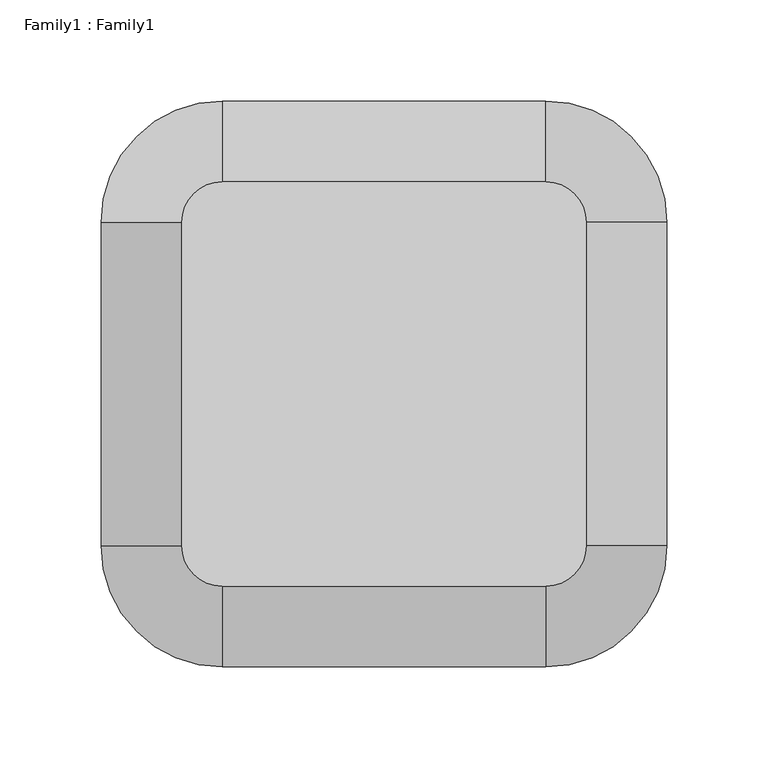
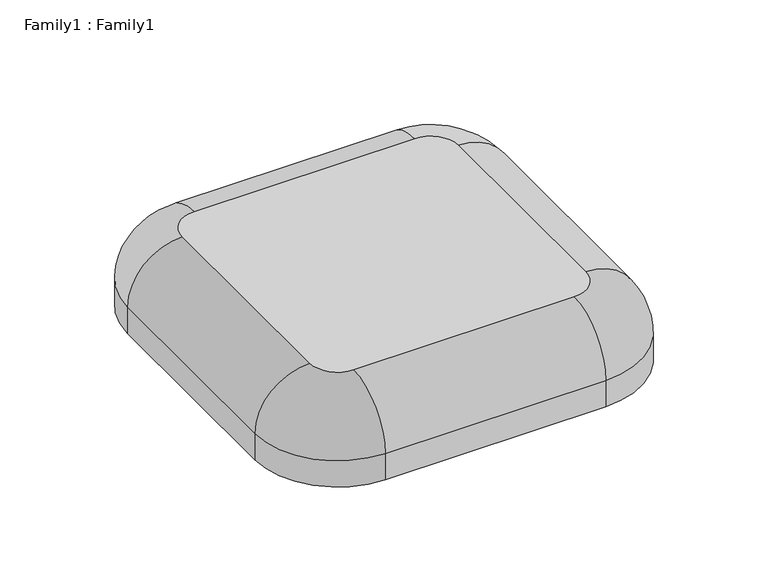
"""IFC4 building model written with IfcOpenShell, lengths in millimetres: proxy geometry, Family1 : Family1."""

import ifcopenshell
import ifcopenshell.guid

model = None  # the IFC model being written
_history = None  # IfcOwnerHistory: only IFC2X3 demands one
_inside = {}  # id of a spatial element -> (the spatial element, [elements in it])
_under = {}  # id of a project, library or spatial element -> (it, [spatial elements below it])
_declared = {}  # id of a project -> (the project, [libraries it declares])
_typed = {}  # id of a type object -> (the type object, [elements of that type])
_made_of = {}  # id of a material, layer set ... -> (it, [elements and type objects made of it])


def new_model(schema):
    """Start an empty IFC model of exactly this schema.

    Asked for "IFC4X3", IfcOpenShell would pick the latest addendum, in which some entities
    have other attributes; the version numbers below select the first issue.
    IFC2X3 requires an IfcOwnerHistory on every rooted entity: one is made here for all.
    """
    global model, _history
    if schema == "IFC4X3":
        model = ifcopenshell.file(schema_version=(4, 3, 0, 0))
    else:
        model = ifcopenshell.file(schema=schema)
    _inside.clear()
    _under.clear()
    _declared.clear()
    _typed.clear()
    _made_of.clear()
    _history = None
    if model.schema == "IFC2X3":
        org = make("IfcOrganization", Name="unknown")
        user = make(
            "IfcPersonAndOrganization",
            ThePerson=make("IfcPerson", FamilyName="unknown"),
            TheOrganization=org,
        )
        app = make(
            "IfcApplication",
            ApplicationDeveloper=org,
            Version="unknown",
            ApplicationFullName="unknown",
            ApplicationIdentifier="unknown",
        )
        _history = make(
            "IfcOwnerHistory",
            OwningUser=user,
            OwningApplication=app,
            ChangeAction="ADDED",
            CreationDate=0,
        )
    return model


def make(cls, **values):
    """One entity of the class cls with the attributes given. An attribute that is None is left unset."""
    return model.create_entity(
        cls, **{name: value for name, value in values.items() if value is not None}
    )


def rooted(cls, **values):
    """An entity with a GlobalId (a new one), such as an element, a storey or a relation."""
    return make(cls, GlobalId=ifcopenshell.guid.new(), OwnerHistory=_history, **values)


def si_unit(unit_type, name, prefix=None):
    """IfcSIUnit, for example si_unit("LENGTHUNIT", "METRE", prefix="MILLI")."""
    return make("IfcSIUnit", UnitType=unit_type, Prefix=prefix, Name=name)


def assignment(units):
    """IfcUnitAssignment: the units of a project."""
    return None if units is None else make("IfcUnitAssignment", Units=units)


def point(xyz):
    """IfcCartesianPoint."""
    return None if xyz is None else make("IfcCartesianPoint", Coordinates=xyz)


def direction(xyz):
    """IfcDirection."""
    return None if xyz is None else make("IfcDirection", DirectionRatios=xyz)


def frame(location, z_axis=None, x_axis=None):
    """IfcAxis2Placement3D, a coordinate frame: its origin and axes. An axis left out is left unset."""
    return make(
        "IfcAxis2Placement3D",
        Location=point(location),
        Axis=direction(z_axis),
        RefDirection=direction(x_axis),
    )


def origin():
    """The frame at (0, 0, 0) with its axes left unset."""
    return frame((0.0, 0.0, 0.0))


def place(relative_to, where):
    """IfcLocalPlacement: puts the frame where relative to a parent placement (None: the world)."""
    return make(
        "IfcLocalPlacement", PlacementRelTo=relative_to, RelativePlacement=where
    )


def context(
    kind, dimensions, precision=None, world=None, true_north=None, identifier=None
):
    """IfcGeometricRepresentationContext, for example the 3D "Model" context."""
    return make(
        "IfcGeometricRepresentationContext",
        ContextIdentifier=identifier,
        ContextType=kind,
        CoordinateSpaceDimension=dimensions,
        Precision=precision,
        WorldCoordinateSystem=world,
        TrueNorth=true_north,
    )


def project(units=None, contexts=None):
    """IfcProject with its units and contexts."""
    return rooted(
        "IfcProject",
        Name="project",
        RepresentationContexts=contexts,
        UnitsInContext=assignment(units),
    )


def spatial(cls, under=None, at=None, **own):
    """A site, building, storey or space (cls), placed at a placement, below another one or the project."""
    s = rooted(cls, ObjectPlacement=at, **own)
    if under is not None:
        _under.setdefault(under.id(), (under, []))[1].append(s)
    return s


def circle_curve(where, radius):
    """IfcCircle in the frame where."""
    return make("IfcCircle", Position=where, Radius=radius)


def ellipse_curve(where, semi_axis1, semi_axis2):
    """IfcEllipse in the frame where."""
    return make(
        "IfcEllipse", Position=where, SemiAxis1=semi_axis1, SemiAxis2=semi_axis2
    )


def trimmed(basis, trim1, trim2, sense, master):
    """IfcTrimmedCurve: the piece of a basis curve between two trims."""
    return make(
        "IfcTrimmedCurve",
        BasisCurve=basis,
        Trim1=trim1,
        Trim2=trim2,
        SenseAgreement=sense,
        MasterRepresentation=master,
    )


def shape(context_of_items, identifier, shape_type, items):
    """IfcShapeRepresentation: the items that make up one representation, for example the "Body"."""
    return make(
        "IfcShapeRepresentation",
        ContextOfItems=context_of_items,
        RepresentationIdentifier=identifier,
        RepresentationType=shape_type,
        Items=items,
    )


def source(mapping_origin, context_of_items, identifier, shape_type, items):
    """IfcRepresentationMap: a shape defined once, which mapped items show again and again."""
    return make(
        "IfcRepresentationMap",
        MappingOrigin=mapping_origin,
        MappedRepresentation=shape(context_of_items, identifier, shape_type, items),
    )


def transform(
    local_origin,
    x_axis=None,
    y_axis=None,
    z_axis=None,
    scale=None,
    scale2=None,
    scale3=None,
    uniform=True,
):
    """IfcCartesianTransformationOperator3D, or its non-uniform kind. x_axis, y_axis, z_axis: its Axis1, 2, 3."""
    if uniform:
        return make(
            "IfcCartesianTransformationOperator3D",
            Axis1=direction(x_axis),
            Axis2=direction(y_axis),
            LocalOrigin=point(local_origin),
            Scale=scale,
            Axis3=direction(z_axis),
        )
    return make(
        "IfcCartesianTransformationOperator3DnonUniform",
        Axis1=direction(x_axis),
        Axis2=direction(y_axis),
        LocalOrigin=point(local_origin),
        Scale=scale,
        Axis3=direction(z_axis),
        Scale2=scale2,
        Scale3=scale3,
    )


def mapped(mapping_source, mapping_target):
    """IfcMappedItem: shows the shape of a source again, moved by a transform."""
    return make(
        "IfcMappedItem", MappingSource=mapping_source, MappingTarget=mapping_target
    )


def made_of(thing, what):
    """Note that an element or type object is made of a material, layer set ...; save() writes the relation."""
    if what is not None:
        _made_of.setdefault(what.id(), (what, []))[1].append(thing)
    return thing


def element(
    cls,
    number,
    at=None,
    inside=None,
    cuts=None,
    type_object=None,
    material=None,
    context=None,
    identifier="Body",
    shape_type=None,
    held_by="IfcProductDefinitionShape",
    body=None,
    shapes=None,
    **own,
):
    """One element of the class cls, such as IfcWall. Its Tag is "e" and its number.

    at: its placement. inside: the storey or other place that contains it. cuts: it is an
    opening in that element (IfcRelVoidsElement). A single representation is given by context,
    identifier, shape_type and body (its items); several are given by shapes. held_by: the class
    of the entity that holds the representations. save() writes the other relations.
    """
    e = rooted(cls, Tag="e%d" % number, ObjectPlacement=at, **own)
    if body is not None:
        shapes = [shape(context, identifier, shape_type, body)]
    if shapes is not None:
        e.Representation = make(held_by, Representations=shapes)
    if inside is not None:
        _inside.setdefault(inside.id(), (inside, []))[1].append(e)
    if cuts is not None:
        rooted(
            "IfcRelVoidsElement", RelatingBuildingElement=cuts, RelatedOpeningElement=e
        )
    if type_object is not None:
        _typed.setdefault(type_object.id(), (type_object, []))[1].append(e)
    return made_of(e, material)


def aggregate(whole, parts):
    """IfcRelAggregates: a whole, such as a stair, and the parts it consists of."""
    return rooted("IfcRelAggregates", RelatingObject=whole, RelatedObjects=parts)


def save(model, path):
    """Write the relations noted so far, then the file.

    IfcRelAggregates (storeys below a building ...), IfcRelContainedInSpatialStructure (elements
    in a storey), IfcRelDefinesByType, IfcRelAssociatesMaterial and IfcRelDeclares: one each for
    every whole, place, type object, material and project.
    """
    for whole, parts in _under.values():
        aggregate(whole, parts)
    for where, things in _inside.values():
        rooted(
            "IfcRelContainedInSpatialStructure",
            RelatedElements=things,
            RelatingStructure=where,
        )
    for kind, things in _typed.values():
        rooted("IfcRelDefinesByType", RelatedObjects=things, RelatingType=kind)
    for what, things in _made_of.values():
        rooted("IfcRelAssociatesMaterial", RelatedObjects=things, RelatingMaterial=what)
    for by, libraries in _declared.values():
        rooted("IfcRelDeclares", RelatingContext=by, RelatedDefinitions=libraries)
    model.write(path)


def plane_surface(at):
    """IfcPlane: the flat surface through the origin of the frame at, square to its z axis."""
    return make("IfcPlane", Position=at)


def cylinder_surface(at, radius):
    """IfcCylindricalSurface: all points at the distance radius from the z axis of the frame at."""
    return make("IfcCylindricalSurface", Position=at, Radius=radius)


def revolved_surface(curve, axis_point, axis_direction):
    """IfcSurfaceOfRevolution: the curve turned about the line through axis_point along axis_direction."""
    return make(
        "IfcSurfaceOfRevolution",
        SweptCurve=make("IfcArbitraryOpenProfileDef", ProfileType="CURVE", Curve=curve),
        AxisPosition=make("IfcAxis1Placement", Location=point(axis_point), Axis=direction(axis_direction)),
    )


def advanced_brep(points, edges, surfaces, faces):
    """IfcAdvancedBrep: a solid bounded by faces that lie on surfaces and meet in shared edges.

    An edge is (start, end): straight between two places in points (the first is 0);
    or (start, end, curve); or (start, end, curve, False) where it runs against its curve.
    A face is (place in surfaces, loops), or (place, loops, False) where it looks against
    its surface's normal. A loop lists edges by number (the first is 1), with a minus sign
    where the edge is run from its end to its start. The first loop is the outer one.
    """
    corners = [point(p) for p in points]
    vertices = [make("IfcVertexPoint", VertexGeometry=c) for c in corners]
    made = []
    for start, end, *more in edges:
        made.append(
            make(
                "IfcEdgeCurve",
                EdgeStart=vertices[start],
                EdgeEnd=vertices[end],
                EdgeGeometry=more[0] if more else make("IfcPolyline", Points=[corners[start], corners[end]]),
                SameSense=more[1] if len(more) > 1 else True,
            )
        )
    hull = []
    for where, loops, *sense in faces:
        bounds = []
        for j, loop in enumerate(loops):
            ring = [make("IfcOrientedEdge", EdgeElement=made[abs(k) - 1], Orientation=k > 0) for k in loop]
            bounds.append(
                make(
                    "IfcFaceOuterBound" if j == 0 else "IfcFaceBound",
                    Bound=make("IfcEdgeLoop", EdgeList=ring),
                    Orientation=True,
                )
            )
        hull.append(make("IfcAdvancedFace", Bounds=bounds, FaceSurface=surfaces[where], SameSense=sense[0] if sense else True))
    return make("IfcAdvancedBrep", Outer=make("IfcClosedShell", CfsFaces=hull))


def family1_family1_f63c3cc4(model_context):
    return source(origin(), model_context, "Body", "AdvancedBrep", [
        advanced_brep(
        [(-80.0, 100.0, 60.0), (-100.0, 80.0, 60.0), (-100.0, -80.0, 60.0), (-80.0, -100.0, 60.0), (80.0, -100.0, 60.0), (100.0, -80.0, 60.0), (100.0, 80.0, 60.0), (80.0, 100.0, 60.0), (-140.0, 80.0, 0.0), (-80.0, 140.0, 0.0), (80.0, 140.0, 0.0), (140.0, 80.0, 0.0), (140.0, -80.0, 0.0), (80.0, -140.0, 0.0), (-80.0, -140.0, 0.0), (-140.0, -80.0, 0.0), (-140.0, 80.0, 20.0), (-80.0, 140.0, 20.0), (-140.0, -80.0, 20.0), (-80.0, -140.0, 20.0), (80.0, -140.0, 20.0), (140.0, -80.0, 20.0), (140.0, 80.0, 20.0), (80.0, 140.0, 20.0)],
        [
            (0, 1, circle_curve(frame((-80.0, 80.0, 60.0), z_axis=(0.0, 0.0, 1.0), x_axis=(0.0, 1.0, 0.0)), 20.0)),
            (1, 2),
            (2, 3, circle_curve(frame((-80.0, -80.0, 60.0), z_axis=(0.0, 0.0, 1.0), x_axis=(-1.0, 0.0, 0.0)), 20.0)),
            (3, 4),
            (4, 5, circle_curve(frame((80.0, -80.0, 60.0), z_axis=(0.0, 0.0, 1.0), x_axis=(0.0, -1.0, 0.0)), 20.0)),
            (5, 6),
            (6, 7, circle_curve(frame((80.0, 80.0, 60.0), z_axis=(0.0, 0.0, 1.0), x_axis=(1.0, 0.0, 0.0)), 20.0)),
            (7, 0),
            (8, 9, circle_curve(frame((-80.0, 80.0, 0.0), z_axis=(0.0, 0.0, -1.0), x_axis=(0.0, 1.0, 0.0)), 60.0)),
            (9, 10),
            (10, 11, circle_curve(frame((80.0, 80.0, 0.0), z_axis=(0.0, 0.0, -1.0), x_axis=(1.0, 0.0, 0.0)), 60.0)),
            (11, 12),
            (12, 13, circle_curve(frame((80.0, -80.0, 0.0), z_axis=(0.0, 0.0, -1.0), x_axis=(0.0, -1.0, 0.0)), 60.0)),
            (13, 14),
            (14, 15, circle_curve(frame((-80.0, -80.0, 0.0), z_axis=(0.0, 0.0, -1.0), x_axis=(-1.0, 0.0, 0.0)), 60.0)),
            (15, 8),
            (16, 17, circle_curve(frame((-80.0, 80.0, 20.0), z_axis=(0.0, 0.0, -1.0), x_axis=(0.0, 1.0, 0.0)), 60.0)),
            (17, 9),
            (8, 16),
            (16, 1, circle_curve(frame((-100.0, 80.0, 20.0), z_axis=(0.0, 1.0, 0.0), x_axis=(1.0, 0.0, 0.0)), 40.0)),
            (0, 17, circle_curve(frame((-80.0, 100.0, 20.0), z_axis=(-1.0, 0.0, 0.0), x_axis=(0.0, -1.0, 0.0)), 40.0)),
            (15, 18),
            (18, 16),
            (18, 2, circle_curve(frame((-100.0, -80.0, 20.0), z_axis=(0.0, 1.0, 0.0), x_axis=(1.0, 0.0, 0.0)), 40.0)),
            (14, 19),
            (19, 18, circle_curve(frame((-80.0, -80.0, 20.0), z_axis=(0.0, 0.0, -1.0), x_axis=(-1.0, 0.0, 0.0)), 60.0)),
            (19, 3, circle_curve(frame((-80.0, -100.0, 20.0), z_axis=(-1.0, 0.0, 0.0), x_axis=(0.0, 1.0, 0.0)), 40.0)),
            (13, 20),
            (20, 19),
            (20, 4, circle_curve(frame((80.0, -100.0, 20.0), z_axis=(-1.0, 0.0, 0.0), x_axis=(0.0, 1.0, 0.0)), 40.0)),
            (12, 21),
            (21, 20, circle_curve(frame((80.0, -80.0, 20.0), z_axis=(0.0, 0.0, -1.0), x_axis=(0.0, -1.0, 0.0)), 60.0)),
            (21, 5, circle_curve(frame((100.0, -80.0, 20.0), z_axis=(0.0, -1.0, 0.0), x_axis=(-1.0, 0.0, 0.0)), 40.0)),
            (11, 22),
            (22, 21),
            (22, 6, circle_curve(frame((100.0, 80.0, 20.0), z_axis=(0.0, -1.0, 0.0), x_axis=(-1.0, 0.0, 0.0)), 40.0)),
            (10, 23),
            (23, 22, circle_curve(frame((80.0, 80.0, 20.0), z_axis=(0.0, 0.0, -1.0), x_axis=(1.0, 0.0, 0.0)), 60.0)),
            (23, 7, circle_curve(frame((80.0, 100.0, 20.0), z_axis=(1.0, 0.0, 0.0), x_axis=(0.0, -1.0, 0.0)), 40.0)),
            (17, 23),
        ],
        [
            plane_surface(frame((-60.0, 80.0, 60.0), z_axis=(0.0, 0.0, 1.0), x_axis=(0.0, 1.0, 0.0))),
            plane_surface(frame((-60.0, 80.0, 0.0), z_axis=(0.0, 0.0, -1.0), x_axis=(0.0, -1.0, 0.0))),
            cylinder_surface(frame((-80.0, 80.0, 0.0), z_axis=(0.0, 0.0, 1.0), x_axis=(0.0, 1.0, 0.0)), 60.0),
            revolved_surface(trimmed(ellipse_curve(frame((-80.0, 100.0, 20.0), z_axis=(1.0, 0.0, 0.0), x_axis=(0.0, -1.0, 0.0)), 40.0, 40.0), [point((-80.0, 140.0, 20.0))], [point((-80.0, 100.0, 60.0))], True, "CARTESIAN"), (-80.0, 80.0, 0.0), (0.0, 0.0, 1.0)),
            plane_surface(frame((-140.0, 80.0, 0.0), z_axis=(-1.0, 0.0, 0.0), x_axis=(0.0, -1.0, 0.0))),
            cylinder_surface(frame((-100.0, 80.0, 20.0), z_axis=(0.0, 1.0, 0.0), x_axis=(1.0, 0.0, 0.0)), 40.0),
            cylinder_surface(frame((-80.0, -80.0, 0.0), z_axis=(0.0, 0.0, 1.0), x_axis=(-1.0, 0.0, 0.0)), 60.0),
            revolved_surface(trimmed(ellipse_curve(frame((-100.0, -80.0, 20.0), z_axis=(0.0, 1.0, 0.0), x_axis=(1.0, 0.0, 0.0)), 40.0, 40.0), [point((-140.0, -80.0, 20.0))], [point((-100.0, -80.0, 60.0))], True, "CARTESIAN"), (-80.0, -80.0, 0.0), (0.0, 0.0, 1.0)),
            plane_surface(frame((-80.0, -140.0, 0.0), z_axis=(0.0, -1.0, 0.0), x_axis=(1.0, 0.0, 0.0))),
            cylinder_surface(frame((-80.0, -100.0, 20.0), z_axis=(-1.0, 0.0, 0.0), x_axis=(0.0, 1.0, 0.0)), 40.0),
            cylinder_surface(frame((80.0, -80.0, 0.0), z_axis=(0.0, 0.0, 1.0), x_axis=(0.0, -1.0, 0.0)), 60.0),
            revolved_surface(trimmed(ellipse_curve(frame((80.0, -100.0, 20.0), z_axis=(-1.0, 0.0, 0.0), x_axis=(0.0, 1.0, 0.0)), 40.0, 40.0), [point((80.0, -140.0, 20.0))], [point((80.0, -100.0, 60.0))], True, "CARTESIAN"), (80.0, -80.0, 0.0), (0.0, 0.0, 1.0)),
            plane_surface(frame((140.0, -80.0, 0.0), z_axis=(1.0, 0.0, 0.0), x_axis=(0.0, 1.0, 0.0))),
            cylinder_surface(frame((100.0, -80.0, 20.0), z_axis=(0.0, -1.0, 0.0), x_axis=(-1.0, 0.0, 0.0)), 40.0),
            cylinder_surface(frame((80.0, 80.0, 0.0), z_axis=(0.0, 0.0, 1.0), x_axis=(1.0, 0.0, 0.0)), 60.0),
            revolved_surface(trimmed(ellipse_curve(frame((100.0, 80.0, 20.0), z_axis=(0.0, -1.0, 0.0), x_axis=(-1.0, 0.0, 0.0)), 40.0, 40.0), [point((140.0, 80.0, 20.0))], [point((100.0, 80.0, 60.0))], True, "CARTESIAN"), (80.0, 80.0, 0.0), (0.0, 0.0, 1.0)),
            plane_surface(frame((80.0, 140.0, 0.0), z_axis=(0.0, 1.0, 0.0), x_axis=(-1.0, 0.0, 0.0))),
            cylinder_surface(frame((80.0, 100.0, 20.0), z_axis=(1.0, 0.0, 0.0), x_axis=(0.0, -1.0, 0.0)), 40.0),
        ],
        [
            (0, [[1, 2, 3, 4, 5, 6, 7, 8]]),
            (1, [[9, 10, 11, 12, 13, 14, 15, 16]]),
            (2, [[17, 18, -9, 19]]),
            (3, [[-17, 20, -1, 21]]),
            (4, [[-19, -16, 22, 23]]),
            (5, [[-20, -23, 24, -2]]),
            (6, [[-22, -15, 25, 26]]),
            (7, [[-24, -26, 27, -3]]),
            (8, [[-25, -14, 28, 29]]),
            (9, [[-27, -29, 30, -4]]),
            (10, [[-28, -13, 31, 32]]),
            (11, [[-30, -32, 33, -5]]),
            (12, [[-31, -12, 34, 35]]),
            (13, [[-33, -35, 36, -6]]),
            (14, [[-34, -11, 37, 38]]),
            (15, [[-36, -38, 39, -7]]),
            (16, [[-18, 40, -37, -10]]),
            (17, [[-21, -8, -39, -40]]),
        ],
    ),
    ])


if __name__ == "__main__":
    model = new_model("IFC4")
    model_context = context("Model", 3, world=origin())
    ifc_project = project(units=[si_unit("LENGTHUNIT", "METRE", prefix="MILLI")], contexts=[model_context])
    site = spatial("IfcSite", under=ifc_project)
    building = spatial("IfcBuilding", under=site)
    placement = place(None, origin())
    family1_family1_shape = family1_family1_f63c3cc4(model_context)
    element("IfcBuildingElementProxy", 1, Name="Family1 : Family1", ObjectType="Family1 : Family1", at=placement, inside=building, context=model_context, shape_type="MappedRepresentation", body=[
        mapped(family1_family1_shape, transform((0.0, 0.0, 0.0), x_axis=(1.0, 0.0, 0.0), y_axis=(0.0, 1.0, 0.0), z_axis=(0.0, 0.0, 1.0))),
    ])
    save(model, "model.ifc")
